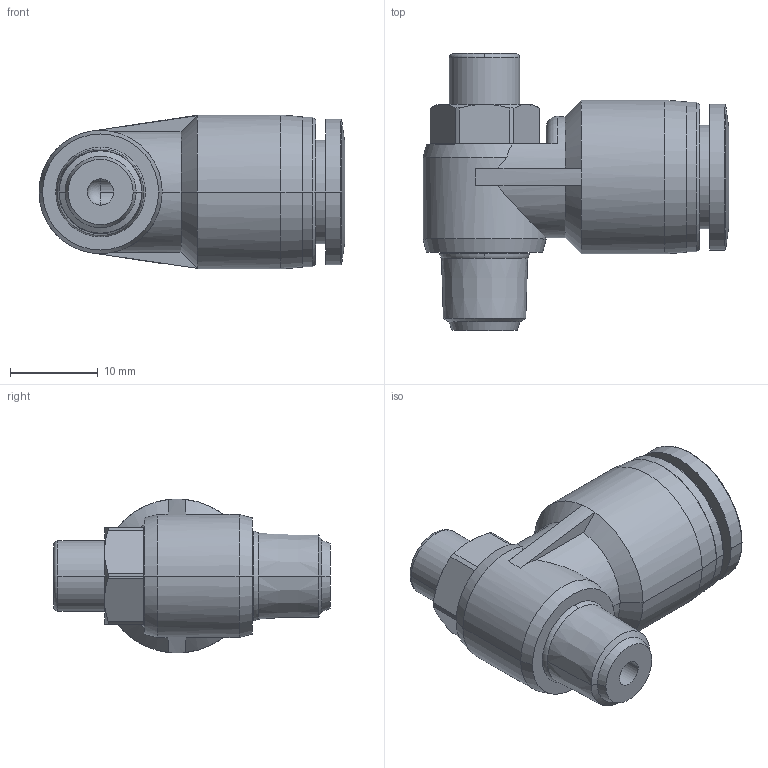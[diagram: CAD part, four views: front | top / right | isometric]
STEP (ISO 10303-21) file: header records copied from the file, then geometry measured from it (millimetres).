
FILE_DESCRIPTION (( 'STEP AP203' ), '1' );
FILE_NAME ('SCLF10-01.STEP', '2020-05-13T17:32:15', ( '' ), ( '' ), 'SwSTEP 2.0', 'SolidWorks 2019', '' );
FILE_SCHEMA (( 'CONFIG_CONTROL_DESIGN' ));
Length unit declared in the file: millimetre
Products named in the file (1): SCLF10-01
Bounding box: 34.8 x 31.5 x 17.5 mm (x, y, z)
Volume: 5957.2 mm3; surface area: 4018.2 mm2
Topology: 1 solids, 1 shells, 130 faces, 315 edges, 195 vertices
Faces by surface type: plane 44, cylinder 41, cone 33, torus 7, bspline 4, sphere 1
Entity records: 4186 total; most frequent: CARTESIAN_POINT 1065, DIRECTION 676, ORIENTED_EDGE 624, EDGE_CURVE 312, AXIS2_PLACEMENT_3D 275, VERTEX_POINT 195, CIRCLE 148, EDGE_LOOP 143
